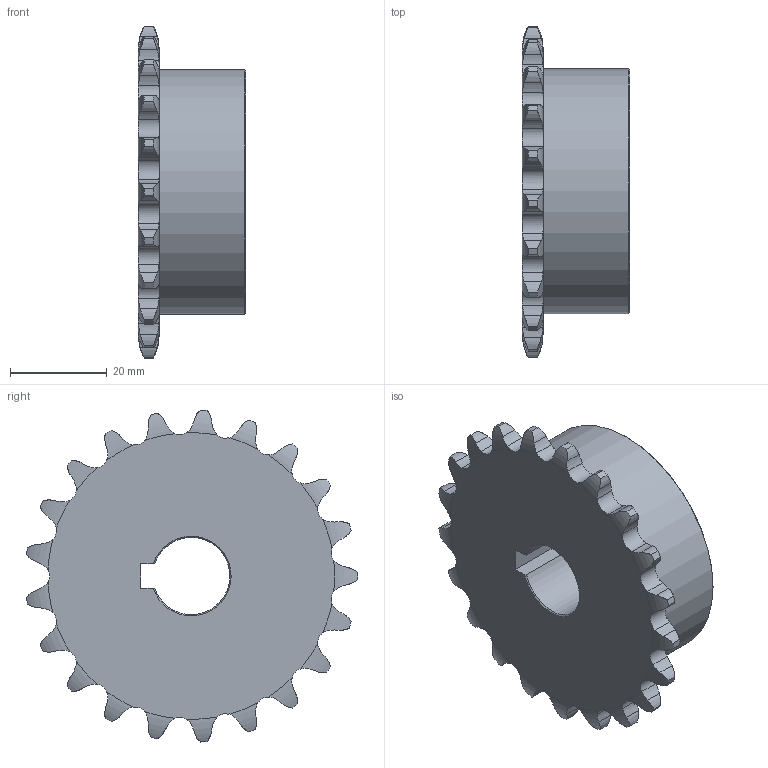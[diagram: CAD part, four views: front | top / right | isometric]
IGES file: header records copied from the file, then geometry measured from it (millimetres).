
Global section: file name: No Iges File Name specified; native system: AutoDesk Inventor R6.0; preprocessor: AutoDesk Inventor Iges Exporter R6.0; author: No Author specified; organization: No Organization specified; date: 20060207.215612; units: inch
Bounding box: 22.23 x 68.62 x 68.81 mm (x, y, z)
Surface area: 11048.8 mm2 (no closed solid volume)
Topology: 0 solids, 0 shells, 179 faces, 1060 edges, 1058 vertices
Faces by surface type: revolution 172, plane 6, bspline 1
